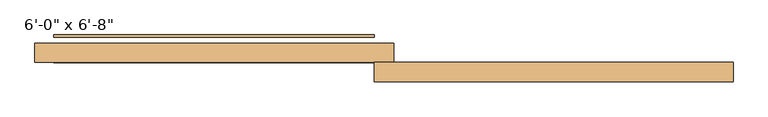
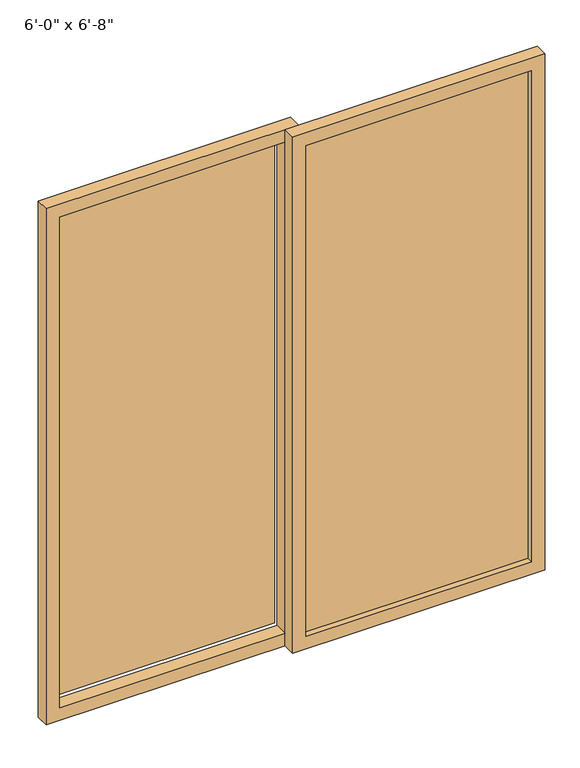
"""IFC4 building model written with IfcOpenShell, lengths in millimetres: door geometry."""

import ifcopenshell
import ifcopenshell.guid

model = None  # the IFC model being written
_history = None  # IfcOwnerHistory: only IFC2X3 demands one
_inside = {}  # id of a spatial element -> (the spatial element, [elements in it])
_under = {}  # id of a project, library or spatial element -> (it, [spatial elements below it])
_declared = {}  # id of a project -> (the project, [libraries it declares])
_typed = {}  # id of a type object -> (the type object, [elements of that type])
_made_of = {}  # id of a material, layer set ... -> (it, [elements and type objects made of it])


def new_model(schema):
    """Start an empty IFC model of exactly this schema.

    Asked for "IFC4X3", IfcOpenShell would pick the latest addendum, in which some entities
    have other attributes; the version numbers below select the first issue.
    IFC2X3 requires an IfcOwnerHistory on every rooted entity: one is made here for all.
    """
    global model, _history
    if schema == "IFC4X3":
        model = ifcopenshell.file(schema_version=(4, 3, 0, 0))
    else:
        model = ifcopenshell.file(schema=schema)
    _inside.clear()
    _under.clear()
    _declared.clear()
    _typed.clear()
    _made_of.clear()
    _history = None
    if model.schema == "IFC2X3":
        org = make("IfcOrganization", Name="unknown")
        user = make(
            "IfcPersonAndOrganization",
            ThePerson=make("IfcPerson", FamilyName="unknown"),
            TheOrganization=org,
        )
        app = make(
            "IfcApplication",
            ApplicationDeveloper=org,
            Version="unknown",
            ApplicationFullName="unknown",
            ApplicationIdentifier="unknown",
        )
        _history = make(
            "IfcOwnerHistory",
            OwningUser=user,
            OwningApplication=app,
            ChangeAction="ADDED",
            CreationDate=0,
        )
    return model


def make(cls, **values):
    """One entity of the class cls with the attributes given. An attribute that is None is left unset."""
    return model.create_entity(
        cls, **{name: value for name, value in values.items() if value is not None}
    )


def rooted(cls, **values):
    """An entity with a GlobalId (a new one), such as an element, a storey or a relation."""
    return make(cls, GlobalId=ifcopenshell.guid.new(), OwnerHistory=_history, **values)


def si_unit(unit_type, name, prefix=None):
    """IfcSIUnit, for example si_unit("LENGTHUNIT", "METRE", prefix="MILLI")."""
    return make("IfcSIUnit", UnitType=unit_type, Prefix=prefix, Name=name)


def assignment(units):
    """IfcUnitAssignment: the units of a project."""
    return None if units is None else make("IfcUnitAssignment", Units=units)


def point(xyz):
    """IfcCartesianPoint."""
    return None if xyz is None else make("IfcCartesianPoint", Coordinates=xyz)


def direction(xyz):
    """IfcDirection."""
    return None if xyz is None else make("IfcDirection", DirectionRatios=xyz)


def frame(location, z_axis=None, x_axis=None):
    """IfcAxis2Placement3D, a coordinate frame: its origin and axes. An axis left out is left unset."""
    return make(
        "IfcAxis2Placement3D",
        Location=point(location),
        Axis=direction(z_axis),
        RefDirection=direction(x_axis),
    )


def origin():
    """The frame at (0, 0, 0) with its axes left unset."""
    return frame((0.0, 0.0, 0.0))


def place(relative_to, where):
    """IfcLocalPlacement: puts the frame where relative to a parent placement (None: the world)."""
    return make(
        "IfcLocalPlacement", PlacementRelTo=relative_to, RelativePlacement=where
    )


def context(
    kind, dimensions, precision=None, world=None, true_north=None, identifier=None
):
    """IfcGeometricRepresentationContext, for example the 3D "Model" context."""
    return make(
        "IfcGeometricRepresentationContext",
        ContextIdentifier=identifier,
        ContextType=kind,
        CoordinateSpaceDimension=dimensions,
        Precision=precision,
        WorldCoordinateSystem=world,
        TrueNorth=true_north,
    )


def project(units=None, contexts=None):
    """IfcProject with its units and contexts."""
    return rooted(
        "IfcProject",
        Name="project",
        RepresentationContexts=contexts,
        UnitsInContext=assignment(units),
    )


def spatial(cls, under=None, at=None, **own):
    """A site, building, storey or space (cls), placed at a placement, below another one or the project."""
    s = rooted(cls, ObjectPlacement=at, **own)
    if under is not None:
        _under.setdefault(under.id(), (under, []))[1].append(s)
    return s


def polyline(points):
    """IfcPolyline through the points."""
    return make("IfcPolyline", Points=[point(p) for p in points])


def outline(outer, holes=None, kind="AREA"):
    """IfcArbitraryClosedProfileDef: a profile drawn as a closed curve; with holes, ...WithVoids."""
    if holes is None:
        return make("IfcArbitraryClosedProfileDef", ProfileType=kind, OuterCurve=outer)
    return make(
        "IfcArbitraryProfileDefWithVoids",
        ProfileType=kind,
        OuterCurve=outer,
        InnerCurves=holes,
    )


def extrude(swept, where, along, depth):
    """IfcExtrudedAreaSolid: the profile swept, set in the frame where, extruded along a direction by depth."""
    return make(
        "IfcExtrudedAreaSolid",
        SweptArea=swept,
        Position=where,
        ExtrudedDirection=direction(along),
        Depth=depth,
    )


def shape(context_of_items, identifier, shape_type, items):
    """IfcShapeRepresentation: the items that make up one representation, for example the "Body"."""
    return make(
        "IfcShapeRepresentation",
        ContextOfItems=context_of_items,
        RepresentationIdentifier=identifier,
        RepresentationType=shape_type,
        Items=items,
    )


def source(mapping_origin, context_of_items, identifier, shape_type, items):
    """IfcRepresentationMap: a shape defined once, which mapped items show again and again."""
    return make(
        "IfcRepresentationMap",
        MappingOrigin=mapping_origin,
        MappedRepresentation=shape(context_of_items, identifier, shape_type, items),
    )


def transform(
    local_origin,
    x_axis=None,
    y_axis=None,
    z_axis=None,
    scale=None,
    scale2=None,
    scale3=None,
    uniform=True,
):
    """IfcCartesianTransformationOperator3D, or its non-uniform kind. x_axis, y_axis, z_axis: its Axis1, 2, 3."""
    if uniform:
        return make(
            "IfcCartesianTransformationOperator3D",
            Axis1=direction(x_axis),
            Axis2=direction(y_axis),
            LocalOrigin=point(local_origin),
            Scale=scale,
            Axis3=direction(z_axis),
        )
    return make(
        "IfcCartesianTransformationOperator3DnonUniform",
        Axis1=direction(x_axis),
        Axis2=direction(y_axis),
        LocalOrigin=point(local_origin),
        Scale=scale,
        Axis3=direction(z_axis),
        Scale2=scale2,
        Scale3=scale3,
    )


def mapped(mapping_source, mapping_target):
    """IfcMappedItem: shows the shape of a source again, moved by a transform."""
    return make(
        "IfcMappedItem", MappingSource=mapping_source, MappingTarget=mapping_target
    )


def made_of(thing, what):
    """Note that an element or type object is made of a material, layer set ...; save() writes the relation."""
    if what is not None:
        _made_of.setdefault(what.id(), (what, []))[1].append(thing)
    return thing


def element(
    cls,
    number,
    at=None,
    inside=None,
    cuts=None,
    type_object=None,
    material=None,
    context=None,
    identifier="Body",
    shape_type=None,
    held_by="IfcProductDefinitionShape",
    body=None,
    shapes=None,
    **own,
):
    """One element of the class cls, such as IfcWall. Its Tag is "e" and its number.

    at: its placement. inside: the storey or other place that contains it. cuts: it is an
    opening in that element (IfcRelVoidsElement). A single representation is given by context,
    identifier, shape_type and body (its items); several are given by shapes. held_by: the class
    of the entity that holds the representations. save() writes the other relations.
    """
    e = rooted(cls, Tag="e%d" % number, ObjectPlacement=at, **own)
    if body is not None:
        shapes = [shape(context, identifier, shape_type, body)]
    if shapes is not None:
        e.Representation = make(held_by, Representations=shapes)
    if inside is not None:
        _inside.setdefault(inside.id(), (inside, []))[1].append(e)
    if cuts is not None:
        rooted(
            "IfcRelVoidsElement", RelatingBuildingElement=cuts, RelatedOpeningElement=e
        )
    if type_object is not None:
        _typed.setdefault(type_object.id(), (type_object, []))[1].append(e)
    return made_of(e, material)


def aggregate(whole, parts):
    """IfcRelAggregates: a whole, such as a stair, and the parts it consists of."""
    return rooted("IfcRelAggregates", RelatingObject=whole, RelatedObjects=parts)


def save(model, path):
    """Write the relations noted so far, then the file.

    IfcRelAggregates (storeys below a building ...), IfcRelContainedInSpatialStructure (elements
    in a storey), IfcRelDefinesByType, IfcRelAssociatesMaterial and IfcRelDeclares: one each for
    every whole, place, type object, material and project.
    """
    for whole, parts in _under.values():
        aggregate(whole, parts)
    for where, things in _inside.values():
        rooted(
            "IfcRelContainedInSpatialStructure",
            RelatedElements=things,
            RelatingStructure=where,
        )
    for kind, things in _typed.values():
        rooted("IfcRelDefinesByType", RelatedObjects=things, RelatingType=kind)
    for what, things in _made_of.values():
        rooted("IfcRelAssociatesMaterial", RelatedObjects=things, RelatingMaterial=what)
    for by, libraries in _declared.values():
        rooted("IfcRelDeclares", RelatingContext=by, RelatedDefinitions=libraries)
    model.write(path)


def door_3974eb5a(model_context):
    return source(origin(), model_context, "Body", "SweptSolid", [
        extrude(outline(polyline([(2032.0, -25.0), (0.0, -25.0), (0.0, 914.4), (2032.0, 914.4), (2032.0, -25.0)]), holes=[polyline([(1982.0, 25.0), (1982.0, 864.4), (50.0, 864.4), (50.0, 25.0), (1982.0, 25.0)])]), frame((0.0, 84.15, 0.0), z_axis=(0.0, 1.0, 0.0), x_axis=(0.0, 0.0, 1.0)), (0.0, 0.0, 1.0), 50.0),
        extrude(outline(polyline([(2032.0, 25.0), (2032.0, -914.4), (0.0, -914.4), (0.0, 25.0), (2032.0, 25.0)]), holes=[polyline([(1982.0, -25.0), (50.0, -25.0), (50.0, -864.4), (1982.0, -864.4), (1982.0, -25.0)])]), frame((0.0, 134.15, 0.0), z_axis=(0.0, 1.0, 0.0), x_axis=(0.0, 0.0, 1.0)), (0.0, 0.0, 1.0), 50.0),
        extrude(outline(polyline([(25.0, 112.325), (864.4, 112.325), (864.4, 105.975), (25.0, 105.975), (25.0, 112.325)])), frame((0.0, 0.0, 50.0), z_axis=(0.0, 0.0, 1.0), x_axis=(1.0, 0.0, 0.0)), (0.0, 0.0, 1.0), 1932.0),
        extrude(outline(polyline([(-25.0, 200.025), (-864.4, 200.025), (-864.4, 206.375), (-25.0, 206.375), (-25.0, 200.025)])), frame((0.0, 0.0, 50.0), z_axis=(0.0, 0.0, 1.0), x_axis=(1.0, 0.0, 0.0)), (0.0, 0.0, 1.0), 1932.0),
    ])


if __name__ == "__main__":
    model = new_model("IFC4")
    model_context = context("Model", 3, world=origin())
    ifc_project = project(units=[si_unit("LENGTHUNIT", "METRE", prefix="MILLI")], contexts=[model_context])
    site = spatial("IfcSite", under=ifc_project)
    building = spatial("IfcBuilding", under=site)
    placement = place(None, origin())
    door_shape = door_3974eb5a(model_context)
    element("IfcDoor", 1, ObjectType="Planitar - Double Sliding Door_Glass : 6'-0\" x 6'-8\"", at=placement, inside=building, context=model_context, shape_type="MappedRepresentation", body=[
        mapped(door_shape, transform((0.0, 0.0, 0.0), x_axis=(1.0, 0.0, 0.0), y_axis=(0.0, 1.0, 0.0), z_axis=(0.0, 0.0, 1.0))),
    ])
    save(model, "model.ifc")
